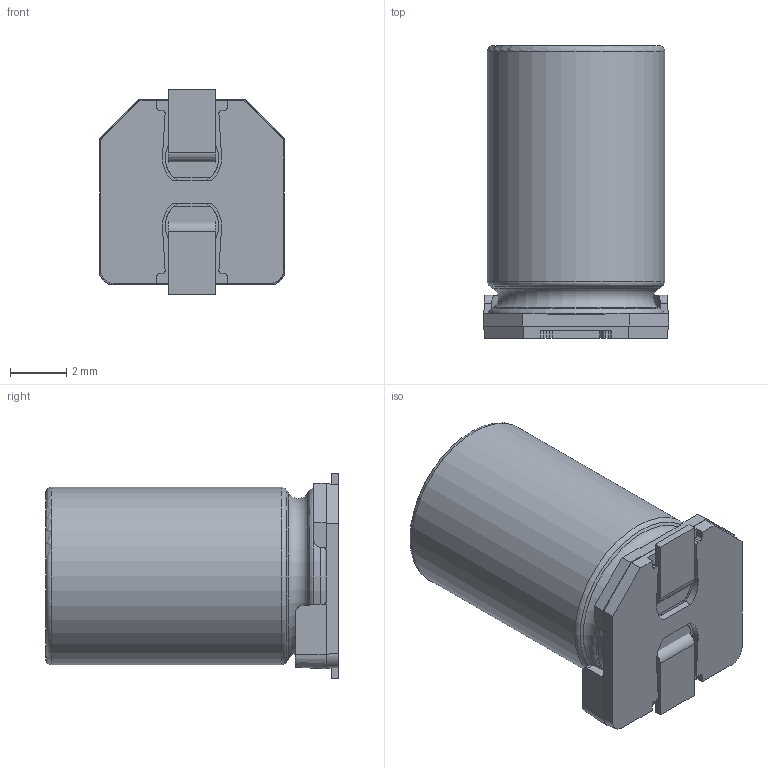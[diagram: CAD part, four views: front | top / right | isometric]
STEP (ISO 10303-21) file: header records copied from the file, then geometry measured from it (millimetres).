
FILE_DESCRIPTION (( 'STEP AP214' ), '1' );
FILE_NAME ('C10L.STEP', '2019-07-09T23:55:22', ( '全社標準PC（ver1803）' ), ( 'パナソニック株式会社' ), 'SwSTEP 2.0', 'SolidWorks 2019', '' );
FILE_SCHEMA (( 'AUTOMOTIVE_DESIGN' ));
Length unit declared in the file: millimetre
Products named in the file (1): C10L
Bounding box: 6.6 x 10.4 x 7.3 mm (x, y, z)
Surface area: 369.1 mm2 (no closed solid volume)
Topology: 0 solids, 6 shells, 106 faces, 310 edges, 210 vertices
Faces by surface type: plane 61, cylinder 34, cone 6, torus 5
Full cylindrical faces by diameter (mm): 6.25 x1, 6.3 x1
Entity records: 4736 total; most frequent: CARTESIAN_POINT 832, ORIENTED_EDGE 569, DIRECTION 533, EDGE_CURVE 300, VERTEX_POINT 209, VECTOR 197, LINE 197, AXIS2_PLACEMENT_3D 168
